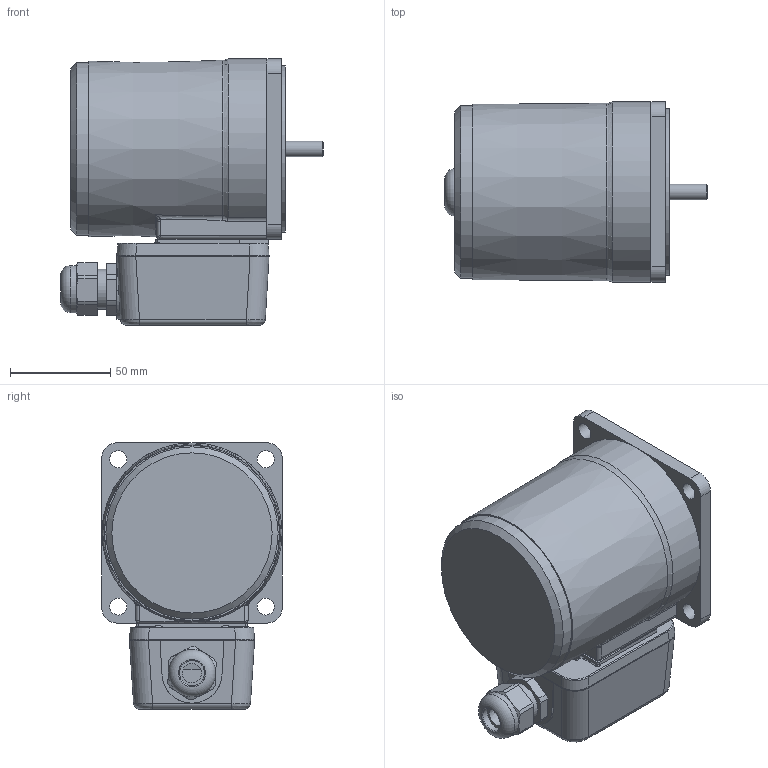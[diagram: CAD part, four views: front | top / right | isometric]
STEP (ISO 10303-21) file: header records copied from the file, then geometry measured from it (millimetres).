
FILE_DESCRIPTION(/* description */ (''),/* implementation_level */ '2;1');
FILE_NAME(/* name */ 'E:\도면작업\2016\0704) 미주향 SG 도면\3D MOTOR\TERMINAL BOX TYPE\INDUCTION TERMINAL BOX\SG9I40G_-T.stp',/* time_stamp */ '2017-01-23T18:31:55+09:00',/* author */ ('jy-jung'),/* organization */ (''),/* preprocessor_version */ 'ST-DEVELOPER v15.6',/* originating_system */ 'Autodesk Inventor 2015',/* authorisation */ '');
FILE_SCHEMA (('AUTOMOTIVE_DESIGN { 1 0 10303 214 3 1 1 }'));
Length unit declared in the file: millimetre
Products named in the file (1): 부품4
Bounding box: 131.1 x 90 x 133 mm (x, y, z)
Volume: 850660.2 mm3; surface area: 70428.9 mm2
Topology: 1 solids, 9 shells, 364 faces, 908 edges, 576 vertices
Faces by surface type: plane 186, cylinder 105, bspline 50, torus 18, cone 5
Full cylindrical faces by diameter (mm): 2.55 x2, 5.6 x4, 6.3 x4, 7.62 x1, 8.5 x4, 12.5 x1, 15 x1, 20 x2, 21 x1, 23.6 x1, 40 x1, 83 x1, 86 x1
Entity records: 12607 total; most frequent: CARTESIAN_POINT 4030, ORIENTED_EDGE 1698, DIRECTION 1618, EDGE_CURVE 849, AXIS2_PLACEMENT_3D 580, VERTEX_POINT 563, LINE 458, VECTOR 458
